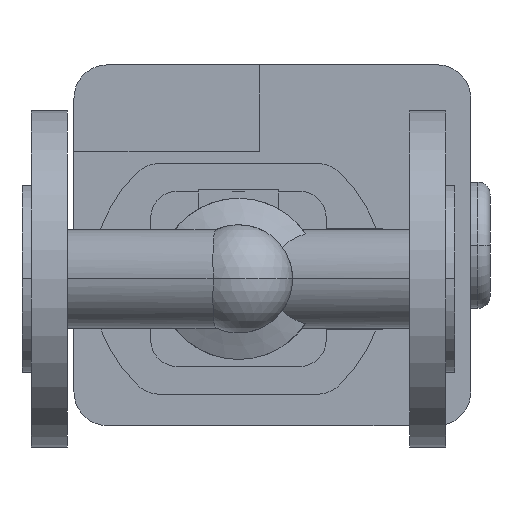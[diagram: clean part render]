
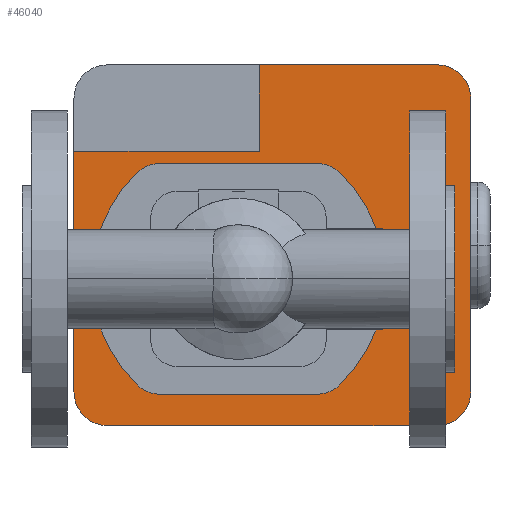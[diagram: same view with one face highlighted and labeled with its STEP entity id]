
A CAD part, front view. The second image highlights one B-rep face of the part: STEP entity #46040.
In plain terms, the highlighted planar face has unit normal (0, -1, 0).
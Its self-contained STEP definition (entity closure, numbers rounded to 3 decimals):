
#34890=CARTESIAN_POINT('',(149.96,313.5,11.216));
#34900=VERTEX_POINT('',#34890);
#34930=CARTESIAN_POINT('',(140.,313.5,0.));
#34940=DIRECTION('',(0.,1.,0.));
#34950=DIRECTION('',(0.,0.,1.));
#34960=AXIS2_PLACEMENT_3D('',#34930,#34940,#34950);
#34970=CIRCLE('',#34960,15.);
#34980=CARTESIAN_POINT('',(149.96,313.5,-11.216));
#34990=VERTEX_POINT('',#34980);
#35000=EDGE_CURVE('',#34900,#34990,#34970,.T.);
#37720=CARTESIAN_POINT('',(132.116,313.5,44.128));
#37730=VERTEX_POINT('',#37720);
#37760=CARTESIAN_POINT('',(90.,313.5,0.));
#37770=DIRECTION('',(0.,1.,0.));
#37780=DIRECTION('',(0.69,0.,0.723));
#37790=AXIS2_PLACEMENT_3D('',#37760,#37770,#37780);
#37800=CIRCLE('',#37790,61.);
#37810=EDGE_CURVE('',#37730,#34900,#37800,.T.);
#38200=CARTESIAN_POINT('',(30.04,313.5,-11.216));
#38210=VERTEX_POINT('',#38200);
#38240=CARTESIAN_POINT('',(40.,313.5,0.));
#38250=DIRECTION('',(0.,1.,0.));
#38260=DIRECTION('',(0.,0.,-1.));
#38270=AXIS2_PLACEMENT_3D('',#38240,#38250,#38260);
#38280=CIRCLE('',#38270,15.);
#38290=CARTESIAN_POINT('',(30.04,313.5,11.216));
#38300=VERTEX_POINT('',#38290);
#38310=EDGE_CURVE('',#38210,#38300,#38280,.T.);
#39300=CARTESIAN_POINT('',(47.884,313.5,-44.128));
#39310=VERTEX_POINT('',#39300);
#39340=CARTESIAN_POINT('',(90.,313.5,0.));
#39350=DIRECTION('',(0.,1.,0.));
#39360=DIRECTION('',(-0.69,0.,-0.723));
#39370=AXIS2_PLACEMENT_3D('',#39340,#39350,#39360);
#39380=CIRCLE('',#39370,61.);
#39390=EDGE_CURVE('',#39310,#38210,#39380,.T.);
#41770=CARTESIAN_POINT('',(186.6,313.5,-47.));
#41780=VERTEX_POINT('',#41770);
#41810=CARTESIAN_POINT('',(186.6,313.5,75.));
#41820=DIRECTION('',(0.,0.,-1.));
#41830=VECTOR('',#41820,1.);
#41840=LINE('',#41810,#41830);
#41850=CARTESIAN_POINT('',(186.6,313.5,75.));
#41860=VERTEX_POINT('',#41850);
#41870=EDGE_CURVE('',#41860,#41780,#41840,.T.);
#44590=CARTESIAN_POINT('',(90.,313.5,0.));
#44600=DIRECTION('',(0.,1.,0.));
#44610=DIRECTION('',(0.,0.,1.));
#44620=AXIS2_PLACEMENT_3D('',#44590,#44600,#44610);
#44630=PLANE('',#44620);
#44640=ORIENTED_EDGE('',*,*,#37810,.T.);
#44650=CARTESIAN_POINT('',(122.45,313.5,34.));
#44660=DIRECTION('',(0.,1.,0.));
#44670=DIRECTION('',(0.,0.,1.));
#44680=AXIS2_PLACEMENT_3D('',#44650,#44660,#44670);
#44690=CIRCLE('',#44680,14.);
#44700=CARTESIAN_POINT('',(122.45,313.5,48.));
#44710=VERTEX_POINT('',#44700);
#44720=EDGE_CURVE('',#44710,#37730,#44690,.T.);
#44730=ORIENTED_EDGE('',*,*,#44720,.T.);
#44740=CARTESIAN_POINT('',(73.775,313.5,48.));
#44750=DIRECTION('',(1.,0.,0.));
#44760=VECTOR('',#44750,1.);
#44770=LINE('',#44740,#44760);
#44780=CARTESIAN_POINT('',(57.55,313.5,48.));
#44790=VERTEX_POINT('',#44780);
#44800=EDGE_CURVE('',#44790,#44710,#44770,.T.);
#44810=ORIENTED_EDGE('',*,*,#44800,.T.);
#44820=CARTESIAN_POINT('',(57.55,313.5,34.));
#44830=DIRECTION('',(0.,1.,0.));
#44840=DIRECTION('',(-0.69,0.,0.723));
#44850=AXIS2_PLACEMENT_3D('',#44820,#44830,#44840);
#44860=CIRCLE('',#44850,14.);
#44870=CARTESIAN_POINT('',(47.884,313.5,44.128));
#44880=VERTEX_POINT('',#44870);
#44890=EDGE_CURVE('',#44880,#44790,#44860,.T.);
#44900=ORIENTED_EDGE('',*,*,#44890,.T.);
#44910=CARTESIAN_POINT('',(90.,313.5,0.));
#44920=DIRECTION('',(0.,1.,0.));
#44930=DIRECTION('',(-0.69,0.,-0.723));
#44940=AXIS2_PLACEMENT_3D('',#44910,#44920,#44930);
#44950=CIRCLE('',#44940,61.);
#44960=EDGE_CURVE('',#38300,#44880,#44950,.T.);
#44970=ORIENTED_EDGE('',*,*,#44960,.T.);
#44980=ORIENTED_EDGE('',*,*,#38310,.T.);
#44990=ORIENTED_EDGE('',*,*,#39390,.T.);
#45000=CARTESIAN_POINT('',(57.55,313.5,-34.));
#45010=DIRECTION('',(0.,1.,0.));
#45020=DIRECTION('',(0.,0.,-1.));
#45030=AXIS2_PLACEMENT_3D('',#45000,#45010,#45020);
#45040=CIRCLE('',#45030,14.);
#45050=CARTESIAN_POINT('',(57.55,313.5,-48.));
#45060=VERTEX_POINT('',#45050);
#45070=EDGE_CURVE('',#45060,#39310,#45040,.T.);
#45080=ORIENTED_EDGE('',*,*,#45070,.T.);
#45090=CARTESIAN_POINT('',(106.225,313.5,-48.));
#45100=DIRECTION('',(-1.,0.,0.));
#45110=VECTOR('',#45100,1.);
#45120=LINE('',#45090,#45110);
#45130=CARTESIAN_POINT('',(122.45,313.5,-48.));
#45140=VERTEX_POINT('',#45130);
#45150=EDGE_CURVE('',#45140,#45060,#45120,.T.);
#45160=ORIENTED_EDGE('',*,*,#45150,.T.);
#45170=CARTESIAN_POINT('',(122.45,313.5,-34.));
#45180=DIRECTION('',(0.,1.,0.));
#45190=DIRECTION('',(0.69,0.,-0.723));
#45200=AXIS2_PLACEMENT_3D('',#45170,#45180,#45190);
#45210=CIRCLE('',#45200,14.);
#45220=CARTESIAN_POINT('',(132.116,313.5,-44.128));
#45230=VERTEX_POINT('',#45220);
#45240=EDGE_CURVE('',#45230,#45140,#45210,.T.);
#45250=ORIENTED_EDGE('',*,*,#45240,.T.);
#45260=CARTESIAN_POINT('',(90.,313.5,0.));
#45270=DIRECTION('',(0.,1.,0.));
#45280=DIRECTION('',(0.69,0.,0.723));
#45290=AXIS2_PLACEMENT_3D('',#45260,#45270,#45280);
#45300=CIRCLE('',#45290,61.);
#45310=EDGE_CURVE('',#34990,#45230,#45300,.T.);
#45320=ORIENTED_EDGE('',*,*,#45310,.T.);
#45330=ORIENTED_EDGE('',*,*,#35000,.T.);
#45340=EDGE_LOOP('',(#45330,#45320,#45250,#45160,#45080,#44990,#44980,
#44970,#44900,#44810,#44730,#44640));
#45350=FACE_BOUND('',#45340,.T.);
#45360=CARTESIAN_POINT('',(98.6,313.5,26.5));
#45370=DIRECTION('',(0.,0.,-1.));
#45380=VECTOR('',#45370,1.);
#45390=LINE('',#45360,#45380);
#45400=CARTESIAN_POINT('',(98.6,313.5,89.));
#45410=VERTEX_POINT('',#45400);
#45420=CARTESIAN_POINT('',(98.6,313.5,53.));
#45430=VERTEX_POINT('',#45420);
#45440=EDGE_CURVE('',#45410,#45430,#45390,.T.);
#45450=ORIENTED_EDGE('',*,*,#45440,.T.);
#45460=CARTESIAN_POINT('',(35.6,313.5,89.));
#45470=DIRECTION('',(1.,0.,0.));
#45480=VECTOR('',#45470,1.);
#45490=LINE('',#45460,#45480);
#45500=CARTESIAN_POINT('',(172.6,313.5,89.));
#45510=VERTEX_POINT('',#45500);
#45520=EDGE_CURVE('',#45410,#45510,#45490,.T.);
#45530=ORIENTED_EDGE('',*,*,#45520,.F.);
#45540=CARTESIAN_POINT('',(172.6,313.5,75.));
#45550=DIRECTION('',(0.,1.,0.));
#45560=DIRECTION('',(0.,0.,1.));
#45570=AXIS2_PLACEMENT_3D('',#45540,#45550,#45560);
#45580=CIRCLE('',#45570,14.);
#45590=EDGE_CURVE('',#45510,#41860,#45580,.T.);
#45600=ORIENTED_EDGE('',*,*,#45590,.F.);
#45610=ORIENTED_EDGE('',*,*,#41870,.F.);
#45620=CARTESIAN_POINT('',(172.6,313.5,-47.));
#45630=DIRECTION('',(0.,1.,0.));
#45640=DIRECTION('',(1.,0.,0.));
#45650=AXIS2_PLACEMENT_3D('',#45620,#45630,#45640);
#45660=CIRCLE('',#45650,14.);
#45670=CARTESIAN_POINT('',(172.6,313.5,-61.));
#45680=VERTEX_POINT('',#45670);
#45690=EDGE_CURVE('',#41780,#45680,#45660,.T.);
#45700=ORIENTED_EDGE('',*,*,#45690,.F.);
#45710=CARTESIAN_POINT('',(172.6,313.5,-61.));
#45720=DIRECTION('',(-1.,0.,0.));
#45730=VECTOR('',#45720,1.);
#45740=LINE('',#45710,#45730);
#45750=CARTESIAN_POINT('',(35.6,313.5,-61.));
#45760=VERTEX_POINT('',#45750);
#45770=EDGE_CURVE('',#45680,#45760,#45740,.T.);
#45780=ORIENTED_EDGE('',*,*,#45770,.F.);
#45790=CARTESIAN_POINT('',(35.6,313.5,-47.));
#45800=DIRECTION('',(0.,1.,0.));
#45810=DIRECTION('',(0.,0.,-1.));
#45820=AXIS2_PLACEMENT_3D('',#45790,#45800,#45810);
#45830=CIRCLE('',#45820,14.);
#45840=CARTESIAN_POINT('',(21.6,313.5,-47.));
#45850=VERTEX_POINT('',#45840);
#45860=EDGE_CURVE('',#45760,#45850,#45830,.T.);
#45870=ORIENTED_EDGE('',*,*,#45860,.F.);
#45880=CARTESIAN_POINT('',(21.6,313.5,-47.));
#45890=DIRECTION('',(0.,0.,1.));
#45900=VECTOR('',#45890,1.);
#45910=LINE('',#45880,#45900);
#45920=CARTESIAN_POINT('',(21.6,313.5,53.));
#45930=VERTEX_POINT('',#45920);
#45940=EDGE_CURVE('',#45850,#45930,#45910,.T.);
#45950=ORIENTED_EDGE('',*,*,#45940,.F.);
#45960=CARTESIAN_POINT('',(55.3,313.5,53.));
#45970=DIRECTION('',(-1.,0.,0.));
#45980=VECTOR('',#45970,1.);
#45990=LINE('',#45960,#45980);
#46000=EDGE_CURVE('',#45430,#45930,#45990,.T.);
#46010=ORIENTED_EDGE('',*,*,#46000,.T.);
#46020=EDGE_LOOP('',(#46010,#45950,#45870,#45780,#45700,#45610,#45600,
#45530,#45450));
#46030=FACE_OUTER_BOUND('',#46020,.T.);
#46040=ADVANCED_FACE('',(#45350,#46030),#44630,.F.);
